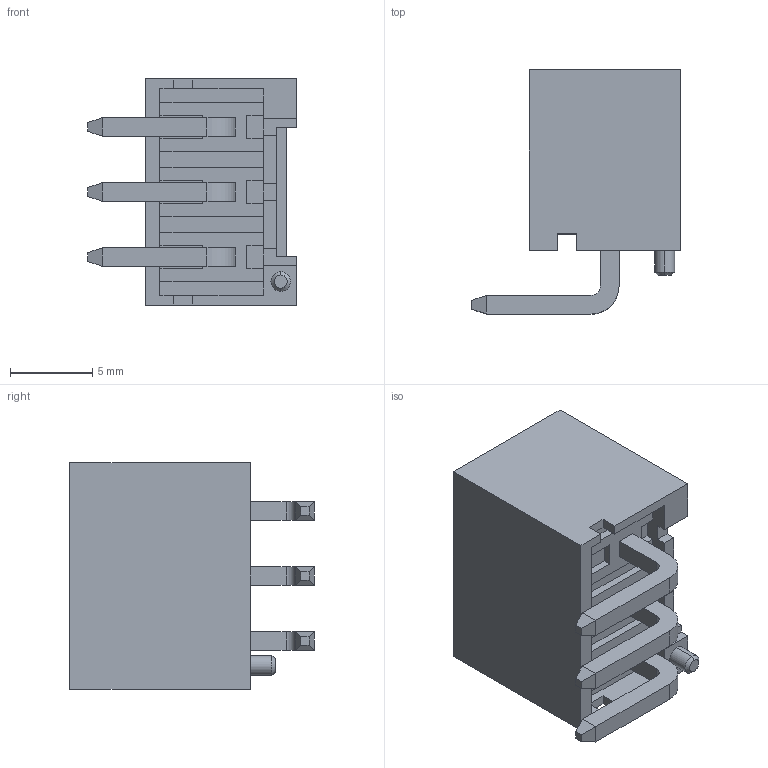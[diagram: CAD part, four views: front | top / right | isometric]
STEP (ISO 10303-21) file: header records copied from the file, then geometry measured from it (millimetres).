
FILE_DESCRIPTION (( 'STEP AP203' ), '1' );
FILE_NAME ('HC-VHH-3AW-G-05 (3.96 单排 高弯针 带柱 座高11mm-HCTL).STEP', '2025-05-16T03:15:00', ( '' ), ( '' ), 'SwSTEP 2.0', 'SolidWorks 2022', '' );
FILE_SCHEMA (( 'CONFIG_CONTROL_DESIGN' ));
Length unit declared in the file: millimetre
Products named in the file (1): HC-VHH-3AW-G-05 (3.96 单排 高弯针 带柱 座高11mm-HCTL)
Bounding box: 12.7 x 14.87 x 13.76 mm (x, y, z)
Volume: 660.7 mm3; surface area: 1403.9 mm2
Topology: 1 solids, 1 shells, 161 faces, 426 edges, 274 vertices
Faces by surface type: plane 151, cylinder 8, cone 2
Entity records: 4935 total; most frequent: CARTESIAN_POINT 862, ORIENTED_EDGE 852, DIRECTION 768, EDGE_CURVE 426, VECTOR 408, LINE 408, VERTEX_POINT 274, AXIS2_PLACEMENT_3D 180
